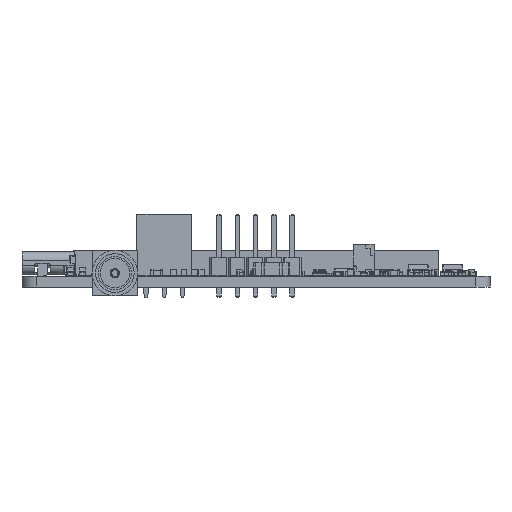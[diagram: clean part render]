
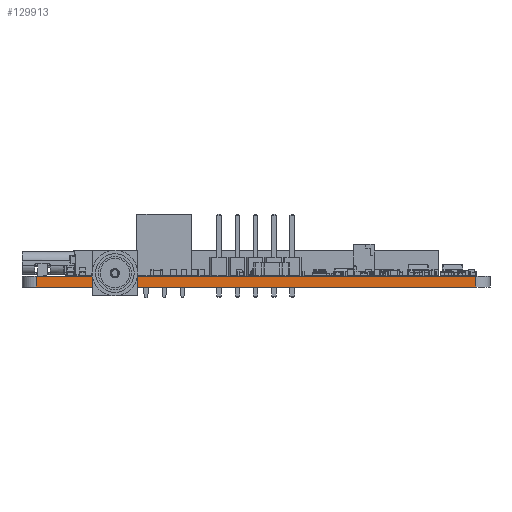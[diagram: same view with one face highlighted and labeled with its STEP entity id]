
A CAD part, front view. The second image highlights one B-rep face of the part: STEP entity #129913.
In plain terms, the highlighted planar face has unit normal (0, -1, 0).
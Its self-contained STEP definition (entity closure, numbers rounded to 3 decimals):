
#127930 = VERTEX_POINT('',#127931);
#127931 = CARTESIAN_POINT('',(102.,-106.5,0.));
#127938 = EDGE_CURVE('',#127939,#127930,#127941,.T.);
#127939 = VERTEX_POINT('',#127940);
#127940 = CARTESIAN_POINT('',(163.,-106.5,0.));
#127941 = LINE('',#127942,#127943);
#127942 = CARTESIAN_POINT('',(163.,-106.5,0.));
#127943 = VECTOR('',#127944,1.);
#127944 = DIRECTION('',(-1.,0.,0.));
#128942 = VERTEX_POINT('',#128943);
#128943 = CARTESIAN_POINT('',(102.,-106.5,1.51));
#128950 = EDGE_CURVE('',#128951,#128942,#128953,.T.);
#128951 = VERTEX_POINT('',#128952);
#128952 = CARTESIAN_POINT('',(163.,-106.5,1.51));
#128953 = LINE('',#128954,#128955);
#128954 = CARTESIAN_POINT('',(163.,-106.5,1.51));
#128955 = VECTOR('',#128956,1.);
#128956 = DIRECTION('',(-1.,0.,0.));
#129885 = EDGE_CURVE('',#127939,#128951,#129886,.T.);
#129886 = LINE('',#129887,#129888);
#129887 = CARTESIAN_POINT('',(163.,-106.5,0.));
#129888 = VECTOR('',#129889,1.);
#129889 = DIRECTION('',(0.,0.,1.));
#129913 = ADVANCED_FACE('',(#129914),#129925,.T.);
#129914 = FACE_BOUND('',#129915,.T.);
#129915 = EDGE_LOOP('',(#129916,#129917,#129918,#129924));
#129916 = ORIENTED_EDGE('',*,*,#129885,.T.);
#129917 = ORIENTED_EDGE('',*,*,#128950,.T.);
#129918 = ORIENTED_EDGE('',*,*,#129919,.F.);
#129919 = EDGE_CURVE('',#127930,#128942,#129920,.T.);
#129920 = LINE('',#129921,#129922);
#129921 = CARTESIAN_POINT('',(102.,-106.5,0.));
#129922 = VECTOR('',#129923,1.);
#129923 = DIRECTION('',(0.,0.,1.));
#129924 = ORIENTED_EDGE('',*,*,#127938,.F.);
#129925 = PLANE('',#129926);
#129926 = AXIS2_PLACEMENT_3D('',#129927,#129928,#129929);
#129927 = CARTESIAN_POINT('',(163.,-106.5,0.));
#129928 = DIRECTION('',(0.,-1.,0.));
#129929 = DIRECTION('',(-1.,0.,0.));
